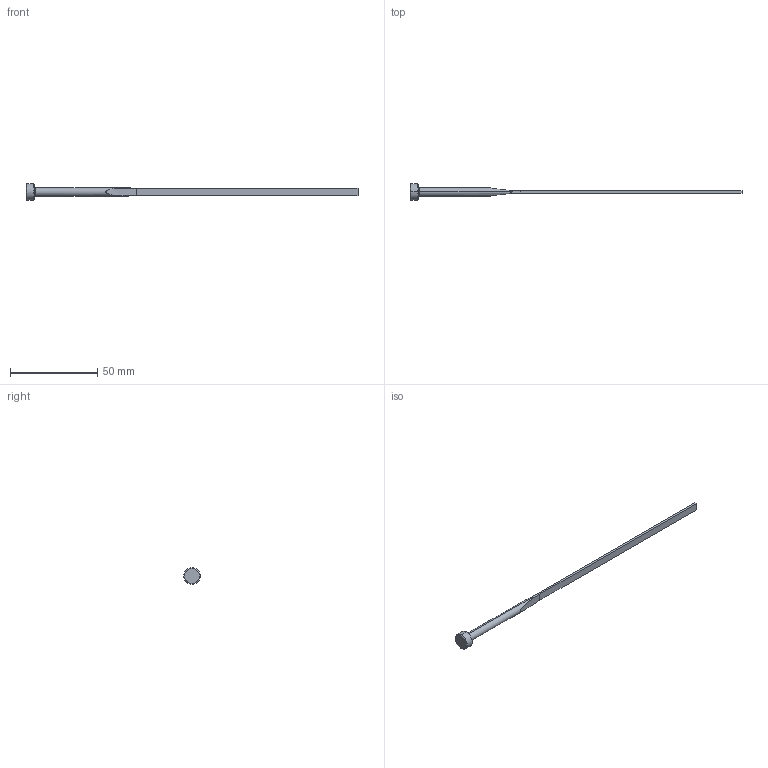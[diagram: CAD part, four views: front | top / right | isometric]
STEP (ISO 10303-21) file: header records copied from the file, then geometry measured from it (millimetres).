
FILE_DESCRIPTION (( 'STEP AP203' ), '1' );
FILE_NAME ('BE187-046L7.5.step', '2020-08-22T06:43:33', ( 'Microsoft Corporation' ), ( 'MS' ), 'SwSTEP 2.0', 'SolidWorks 2018', '' );
FILE_SCHEMA (( 'CONFIG_CONTROL_DESIGN' ));
Length unit declared in the file: inch
Products named in the file (1): BE187-046L7.5
Bounding box: 190.5 x 9.53 x 9.53 mm (x, y, z)
Volume: 1892.8 mm3; surface area: 2502 mm2
Topology: 1 solids, 1 shells, 21 faces, 44 edges, 26 vertices
Faces by surface type: cylinder 8, plane 7, cone 4, torus 2
Entity records: 749 total; most frequent: CARTESIAN_POINT 234, DIRECTION 92, ORIENTED_EDGE 88, EDGE_CURVE 44, AXIS2_PLACEMENT_3D 36, VERTEX_POINT 26, EDGE_LOOP 22, ADVANCED_FACE 21
